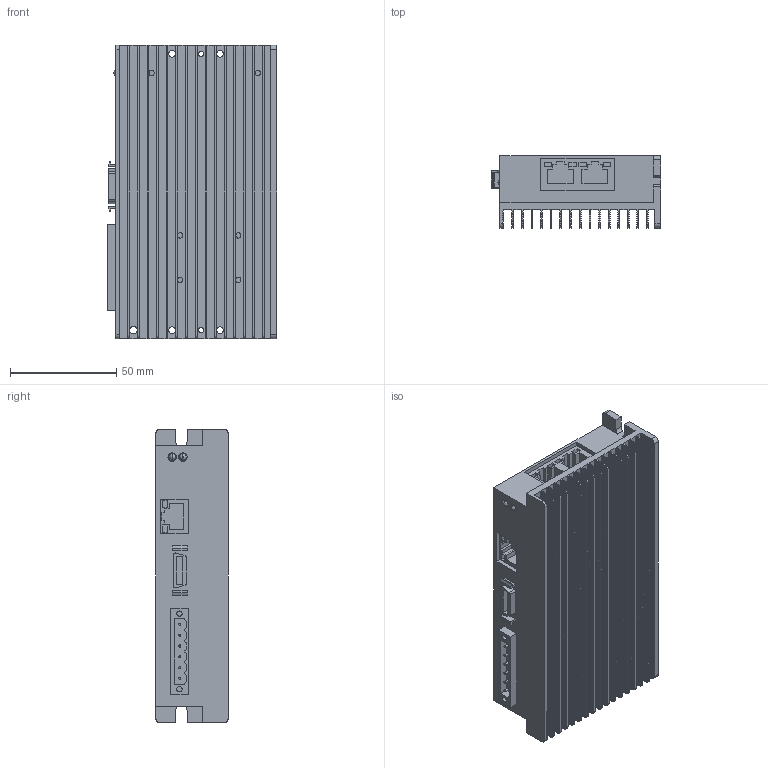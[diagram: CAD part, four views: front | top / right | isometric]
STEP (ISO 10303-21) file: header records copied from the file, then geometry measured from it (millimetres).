
FILE_DESCRIPTION((''),'2;1');
FILE_NAME('FM880EA-MOLD','2018-03-14T14:29:31',('stone'),(''),'CREO PARAMETRIC BY PTC INC, 2016510','CREO PARAMETRIC BY PTC INC, 2016510','');
FILE_SCHEMA(('CONFIG_CONTROL_DESIGN'));
Length unit declared in the file: millimetre
Products named in the file (1): FM880EA-MOLD
Bounding box: 79.5 x 34 x 138 mm (x, y, z)
Volume: 252185.2 mm3; surface area: 79871.7 mm2
Topology: 1 solids, 1 shells, 915 faces, 2632 edges, 1753 vertices
Faces by surface type: plane 811, cylinder 100, bspline 4
Entity records: 29765 total; most frequent: CARTESIAN_POINT 5868, ORIENTED_EDGE 5264, DIRECTION 4471, EDGE_CURVE 2632, VECTOR 2223, LINE 2223, VERTEX_POINT 1753, AXIS2_PLACEMENT_3D 1124
